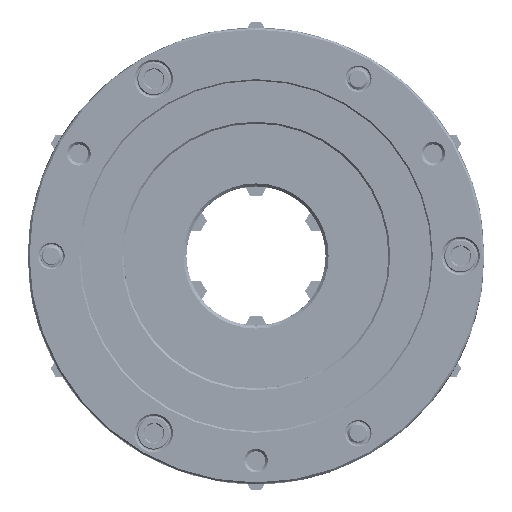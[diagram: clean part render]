
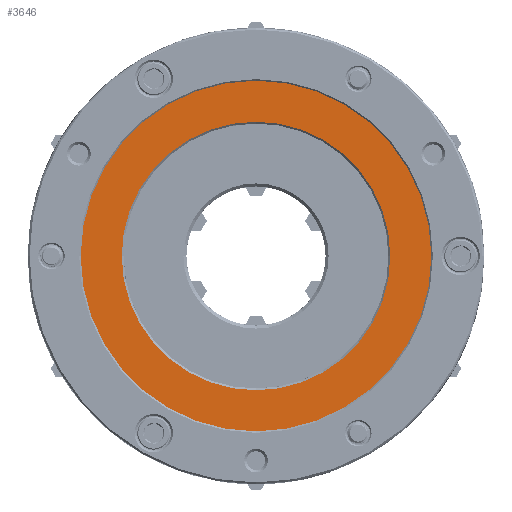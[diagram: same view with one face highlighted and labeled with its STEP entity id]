
A CAD part, front view. The second image highlights one B-rep face of the part: STEP entity #3646.
In plain terms, the highlighted planar face has unit normal (0, -1, 0) as drawn and (1, 0, 0) by its records, which use the part's own axes.
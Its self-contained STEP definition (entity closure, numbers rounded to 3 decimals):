
#524 = AXIS2_PLACEMENT_3D ( 'NONE', #79741, #109272, #15648 ) ;
#2581 = CARTESIAN_POINT ( 'NONE',  ( 27.7, 0., 0. ) ) ;
#3646 = ADVANCED_FACE ( 'NONE', ( #191650, #146819 ), #178373, .F. ) ;
#8458 = DIRECTION ( 'NONE',  ( -1., 0., 0. ) ) ;
#10065 = CARTESIAN_POINT ( 'NONE',  ( 27.7, 0., -96. ) ) ;
#15648 = DIRECTION ( 'NONE',  ( 0., 0., 1. ) ) ;
#15769 = EDGE_LOOP ( 'NONE', ( #96711, #60092 ) ) ;
#22700 = DIRECTION ( 'NONE',  ( 1., 0., 0. ) ) ;
#42833 = CIRCLE ( 'NONE', #524, 73.525 ) ;
#50601 = AXIS2_PLACEMENT_3D ( 'NONE', #180370, #22700, #102052 ) ;
#60092 = ORIENTED_EDGE ( 'NONE', *, *, #198783, .T. ) ;
#60796 = VERTEX_POINT ( 'NONE', #10065 ) ;
#62635 = AXIS2_PLACEMENT_3D ( 'NONE', #69534, #8458, #132564 ) ;
#64705 = DIRECTION ( 'NONE',  ( 0., 0., -1. ) ) ;
#69534 = CARTESIAN_POINT ( 'NONE',  ( 27.7, 96., 0. ) ) ;
#70943 = DIRECTION ( 'NONE',  ( 0., 0., 1. ) ) ;
#79741 = CARTESIAN_POINT ( 'NONE',  ( 27.7, 0., 0. ) ) ;
#96711 = ORIENTED_EDGE ( 'NONE', *, *, #156130, .T. ) ;
#98863 = VERTEX_POINT ( 'NONE', #193358 ) ;
#100443 = DIRECTION ( 'NONE',  ( -1., 0., 0. ) ) ;
#102052 = DIRECTION ( 'NONE',  ( 0., 0., -1. ) ) ;
#103823 = CARTESIAN_POINT ( 'NONE',  ( 27.7, 0., 73.525 ) ) ;
#104646 = ORIENTED_EDGE ( 'NONE', *, *, #106059, .T. ) ;
#106059 = EDGE_CURVE ( 'NONE', #98863, #60796, #193039, .T. ) ;
#107851 = CIRCLE ( 'NONE', #133796, 73.525 ) ;
#109272 = DIRECTION ( 'NONE',  ( -1., 0., 0. ) ) ;
#126335 = VERTEX_POINT ( 'NONE', #103823 ) ;
#129239 = VERTEX_POINT ( 'NONE', #199793 ) ;
#132564 = DIRECTION ( 'NONE',  ( 0., 0., 1. ) ) ;
#133796 = AXIS2_PLACEMENT_3D ( 'NONE', #144216, #100443, #70943 ) ;
#144216 = CARTESIAN_POINT ( 'NONE',  ( 27.7, 0., 0. ) ) ;
#146073 = EDGE_LOOP ( 'NONE', ( #151590, #104646 ) ) ;
#146819 = FACE_OUTER_BOUND ( 'NONE', #146073, .T. ) ;
#151590 = ORIENTED_EDGE ( 'NONE', *, *, #175484, .T. ) ;
#156130 = EDGE_CURVE ( 'NONE', #129239, #126335, #42833, .T. ) ;
#171968 = AXIS2_PLACEMENT_3D ( 'NONE', #2581, #190795, #64705 ) ;
#175484 = EDGE_CURVE ( 'NONE', #60796, #98863, #194741, .T. ) ;
#178373 = PLANE ( 'NONE',  #62635 ) ;
#180370 = CARTESIAN_POINT ( 'NONE',  ( 27.7, 0., 0. ) ) ;
#190795 = DIRECTION ( 'NONE',  ( 1., 0., 0. ) ) ;
#191650 = FACE_BOUND ( 'NONE', #15769, .T. ) ;
#193039 = CIRCLE ( 'NONE', #50601, 96. ) ;
#193358 = CARTESIAN_POINT ( 'NONE',  ( 27.7, 0., 96. ) ) ;
#194741 = CIRCLE ( 'NONE', #171968, 96. ) ;
#198783 = EDGE_CURVE ( 'NONE', #126335, #129239, #107851, .T. ) ;
#199793 = CARTESIAN_POINT ( 'NONE',  ( 27.7, 0., -73.525 ) ) ;
